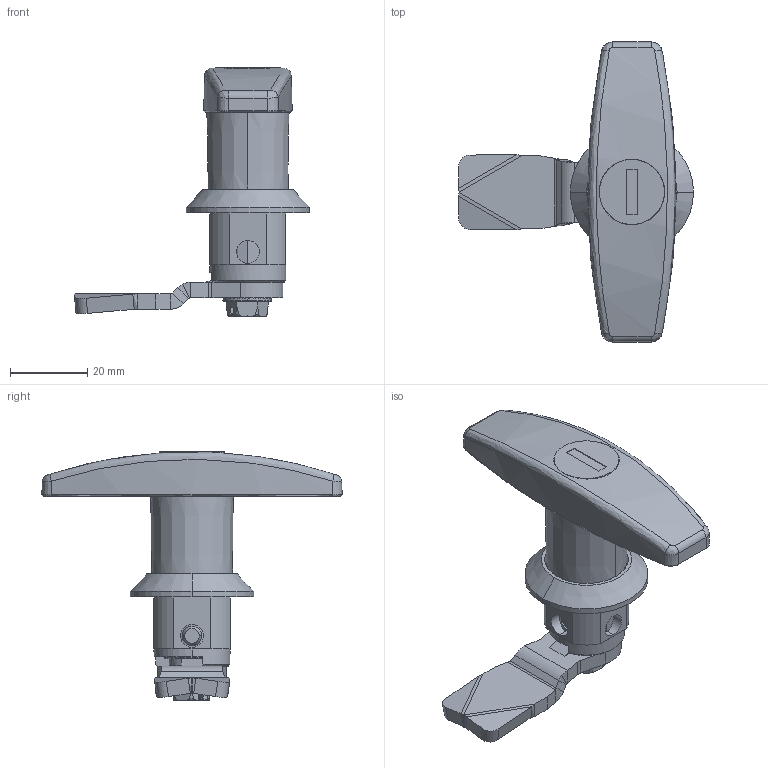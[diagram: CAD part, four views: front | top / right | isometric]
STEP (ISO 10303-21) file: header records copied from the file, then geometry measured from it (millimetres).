
FILE_DESCRIPTION (( 'STEP AP214' ), '1' );
FILE_NAME ('2.T18.001.STEP', '2008-06-18T07:20:23', ( '£ukaszC' ), ( '' ), 'SwSTEP 2.0', 'SolidWorks 2008', '' );
FILE_SCHEMA (( 'AUTOMOTIVE_DESIGN' ));
Length unit declared in the file: millimetre
Products named in the file (11): Wk³adka Patentowa_Domyœlna; Tulejka mimo渞骴; 2.T18.001.10_Domyœlna; 2.PM18.001.03_Domyœlna; œruba M6x8; 1C.J-160.21.45_Domyœlna; wkret M2.5x4_Domyœlna; 2.T18.001.02_Domyœlna; 2.T18.001.01_Domyœlna; 2.T18.001; Oring 12x3,5_Domyœlna
Assembly tree (10 placements, depth 2):
  2.T18.001
    wkret M2.5x4_Domyœlna
    2.T18.001.01_Domyœlna
    2.T18.001.10_Domyœlna
    2.PM18.001.03_Domyœlna
    2.T18.001.02_Domyœlna
    Wk³adka Patentowa_Domyœlna
    œruba M6x8
    Tulejka mimo渞骴
    1C.J-160.21.45_Domyœlna
    Oring 12x3,5_Domyœlna
Bounding box: 61.05 x 77.98 x 64.5 mm (x, y, z)
Volume: 29339.4 mm3; surface area: 20800.8 mm2
Topology: 10 solids, 10 shells, 442 faces, 1123 edges, 714 vertices
Faces by surface type: plane 213, cylinder 100, cone 71, bspline 54, torus 4
Entity records: 21615 total; most frequent: CARTESIAN_POINT 9991, ORIENTED_EDGE 2246, DIRECTION 1887, EDGE_CURVE 1123, VERTEX_POINT 714, AXIS2_PLACEMENT_3D 709, EDGE_LOOP 477, VECTOR 469
